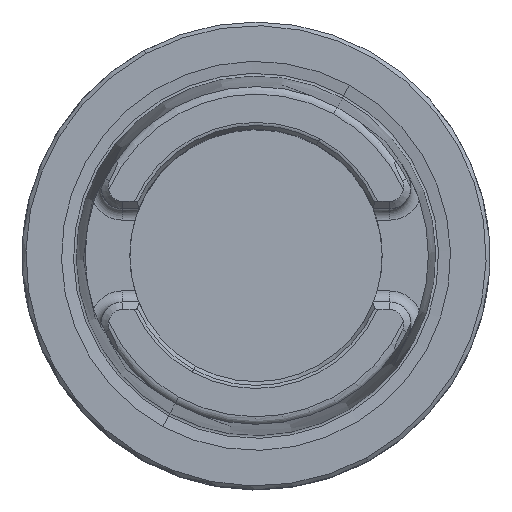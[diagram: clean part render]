
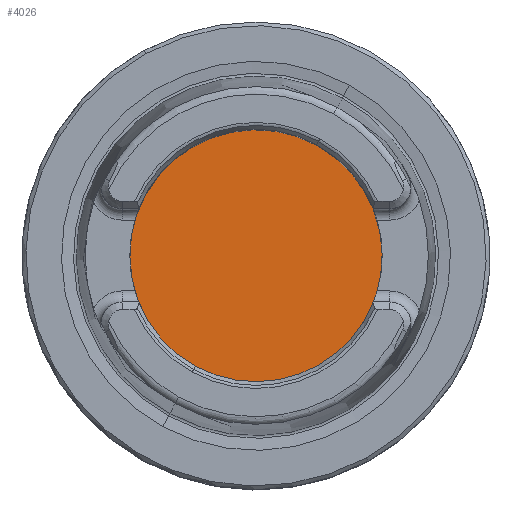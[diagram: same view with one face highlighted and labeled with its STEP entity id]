
A CAD part, top view. The second image highlights one B-rep face of the part: STEP entity #4026.
In plain terms, the highlighted planar face has unit normal (0, 0, 1).
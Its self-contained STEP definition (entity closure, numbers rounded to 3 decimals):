
#4006=AXIS2_PLACEMENT_3D('Plane Axis2P3D',#4003,#4004,#4005) ;
#4010=AXIS2_PLACEMENT_3D('Circle Axis2P3D',#4008,#4009,$) ;
#4019=AXIS2_PLACEMENT_3D('Circle Axis2P3D',#4017,#4018,$) ;
#4003=CARTESIAN_POINT('Axis2P3D Location',(0.,-15.75,-10.)) ;
#4008=CARTESIAN_POINT('Axis2P3D Location',(0.,0.,-10.)) ;
#4012=CARTESIAN_POINT('Vertex',(8.15,14.919,-10.)) ;
#4014=CARTESIAN_POINT('Vertex',(-8.15,-14.919,-10.)) ;
#4017=CARTESIAN_POINT('Axis2P3D Location',(0.,0.,-10.)) ;
#4004=DIRECTION('Axis2P3D Direction',(0.,0.,-1.)) ;
#4005=DIRECTION('Axis2P3D XDirection',(-1.,0.,0.)) ;
#4009=DIRECTION('Axis2P3D Direction',(0.,0.,-1.)) ;
#4018=DIRECTION('Axis2P3D Direction',(0.,0.,-1.)) ;
#4023=ORIENTED_EDGE('',*,*,#4016,.T.) ;
#4024=ORIENTED_EDGE('',*,*,#4021,.T.) ;
#4026=ADVANCED_FACE('NO_CUT',(#4025),#4007,.F.) ;
#4011=CIRCLE('generated circle',#4010,17.) ;
#4020=CIRCLE('generated circle',#4019,17.) ;
#4016=EDGE_CURVE('',#4013,#4015,#4011,.F.) ;
#4021=EDGE_CURVE('',#4015,#4013,#4020,.F.) ;
#4022=EDGE_LOOP('',(#4023,#4024)) ;
#4025=FACE_OUTER_BOUND('',#4022,.T.) ;
#4007=PLANE('',#4006) ;
#4013=VERTEX_POINT('',#4012) ;
#4015=VERTEX_POINT('',#4014) ;
